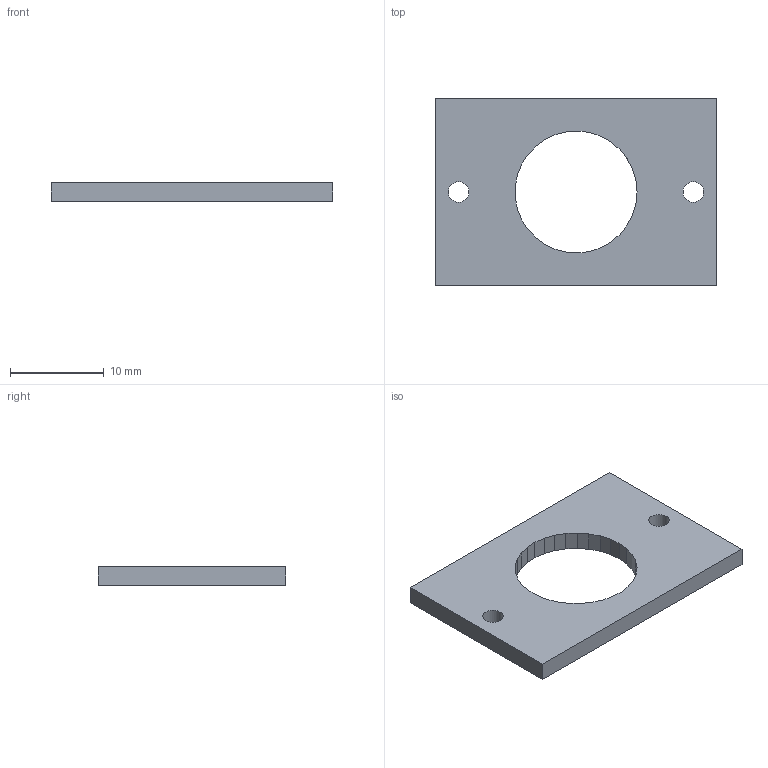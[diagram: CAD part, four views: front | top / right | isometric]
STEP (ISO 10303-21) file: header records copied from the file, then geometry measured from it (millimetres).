
FILE_DESCRIPTION(/* description */ ('STEP AP242 Edition 2','CAx-IF Rec.Pracs.---Representation and Presentation of Product Manufacturing Information (PMI)---4.0---2014-10-13','CAx-IF Rec.Pracs.---3D Tessellated Geometry---0.4---2014-09-14','2;1','CAx-IF Rec.Pracs.---User Defined Attributes---1.5---2016-08-15'),/* implementation_level */ '2;1');
FILE_NAME(/* name */ 'Tracker Assembly - Rod Holder',/* time_stamp */ '2026-10-25T15:06:36Z',/* author */ (''),/* organization */ (''),/* preprocessor_version */ 'ST-DEVELOPER v20',/* originating_system */ 'ONSHAPE BY PTC INC, 1.222',/* authorisation */ ' ');
FILE_SCHEMA (('AP242_MANAGED_MODEL_BASED_3D_ENGINEERING_MIM_LF { 1 0 10303 442 3 1 4 }'));
Length unit declared in the file: metre
Products named in the file (1): Rod Holder
Bounding box: 30 x 20 x 2 mm (x, y, z)
Volume: 920.9 mm3; surface area: 1230.1 mm2
Topology: 1 solids, 1 shells, 41 faces, 117 edges, 78 vertices
Faces by surface type: plane 39, cylinder 2
Full cylindrical faces by diameter (mm): 2.2 x2
Entity records: 1339 total; most frequent: CARTESIAN_POINT 235, ORIENTED_EDGE 230, DIRECTION 203, EDGE_CURVE 115, LINE 111, VECTOR 111, VERTEX_POINT 78, EDGE_LOOP 49
